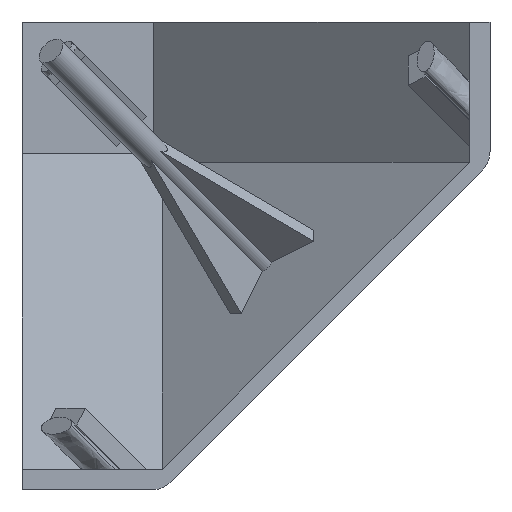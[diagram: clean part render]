
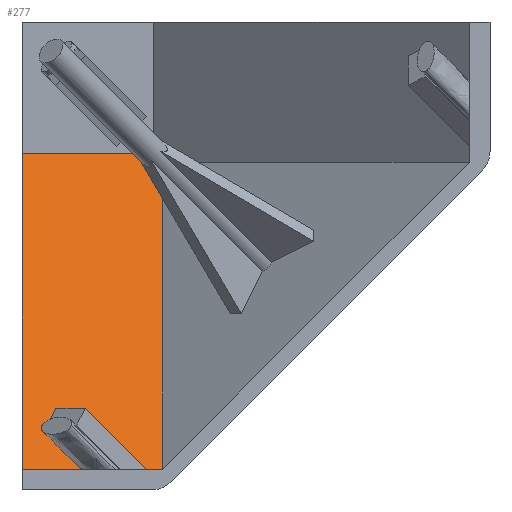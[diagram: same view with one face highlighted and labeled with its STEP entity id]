
A CAD part, front view. The second image highlights one B-rep face of the part: STEP entity #277.
In plain terms, the highlighted planar face has unit normal (0, -0.707, 0.707).
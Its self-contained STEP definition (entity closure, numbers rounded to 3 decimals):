
#32 = DIRECTION ( 'NONE',  ( -1., 0., 0. ) ) ;
#151 = VERTEX_POINT ( 'NONE', #1540 ) ;
#273 = VERTEX_POINT ( 'NONE', #315 ) ;
#277 = ADVANCED_FACE ( 'NONE', ( #505 ), #493, .T. ) ;
#315 = CARTESIAN_POINT ( 'NONE',  ( 13.5, 12.672, -29.5 ) ) ;
#340 = VECTOR ( 'NONE', #1269, 1000. ) ;
#356 = ORIENTED_EDGE ( 'NONE', *, *, #1875, .F. ) ;
#358 = VECTOR ( 'NONE', #2217, 1000. ) ;
#454 = VECTOR ( 'NONE', #32, 1000. ) ;
#489 = LINE ( 'NONE', #1093, #1392 ) ;
#493 = PLANE ( 'NONE',  #1579 ) ;
#505 = FACE_OUTER_BOUND ( 'NONE', #1354, .T. ) ;
#524 = ORIENTED_EDGE ( 'NONE', *, *, #1458, .T. ) ;
#544 = LINE ( 'NONE', #1614, #340 ) ;
#613 = EDGE_CURVE ( 'NONE', #2112, #151, #789, .T. ) ;
#751 = CARTESIAN_POINT ( 'NONE',  ( 13.5, 12.672, -29.5 ) ) ;
#789 = LINE ( 'NONE', #1262, #358 ) ;
#900 = EDGE_CURVE ( 'NONE', #1567, #992, #489, .T. ) ;
#928 = CARTESIAN_POINT ( 'NONE',  ( 13.5, 12.672, -29.5 ) ) ;
#943 = LINE ( 'NONE', #928, #1192 ) ;
#976 = ORIENTED_EDGE ( 'NONE', *, *, #900, .F. ) ;
#992 = VERTEX_POINT ( 'NONE', #1514 ) ;
#1093 = CARTESIAN_POINT ( 'NONE',  ( 0., 12.672, -29.5 ) ) ;
#1106 = DIRECTION ( 'NONE',  ( 0., 0.707, 0.707 ) ) ;
#1192 = VECTOR ( 'NONE', #1106, 1000. ) ;
#1262 = CARTESIAN_POINT ( 'NONE',  ( 8.448, 47.224, 5.052 ) ) ;
#1269 = DIRECTION ( 'NONE',  ( -1., 0., 0. ) ) ;
#1354 = EDGE_LOOP ( 'NONE', ( #1394, #1701, #976, #356, #524 ) ) ;
#1361 = LINE ( 'NONE', #751, #454 ) ;
#1392 = VECTOR ( 'NONE', #2387, 1000. ) ;
#1394 = ORIENTED_EDGE ( 'NONE', *, *, #613, .F. ) ;
#1396 = CARTESIAN_POINT ( 'NONE',  ( 12.672, 43., 0.828 ) ) ;
#1427 = DIRECTION ( 'NONE',  ( 0., -0.707, -0.707 ) ) ;
#1429 = CARTESIAN_POINT ( 'NONE',  ( 0., 12.672, -29.5 ) ) ;
#1458 = EDGE_CURVE ( 'NONE', #273, #151, #943, .T. ) ;
#1514 = CARTESIAN_POINT ( 'NONE',  ( 0., 43., 0.828 ) ) ;
#1539 = EDGE_CURVE ( 'NONE', #2112, #992, #544, .T. ) ;
#1540 = CARTESIAN_POINT ( 'NONE',  ( 13.5, 42.172, 0. ) ) ;
#1567 = VERTEX_POINT ( 'NONE', #1429 ) ;
#1579 = AXIS2_PLACEMENT_3D ( 'NONE', #2334, #1598, #1427 ) ;
#1598 = DIRECTION ( 'NONE',  ( 0., -0.707, 0.707 ) ) ;
#1614 = CARTESIAN_POINT ( 'NONE',  ( 13.5, 43., 0.828 ) ) ;
#1701 = ORIENTED_EDGE ( 'NONE', *, *, #1539, .T. ) ;
#1875 = EDGE_CURVE ( 'NONE', #273, #1567, #1361, .T. ) ;
#2112 = VERTEX_POINT ( 'NONE', #1396 ) ;
#2217 = DIRECTION ( 'NONE',  ( 0.577, -0.577, -0.577 ) ) ;
#2334 = CARTESIAN_POINT ( 'NONE',  ( 13.5, 12.672, -29.5 ) ) ;
#2387 = DIRECTION ( 'NONE',  ( 0., 0.707, 0.707 ) ) ;
